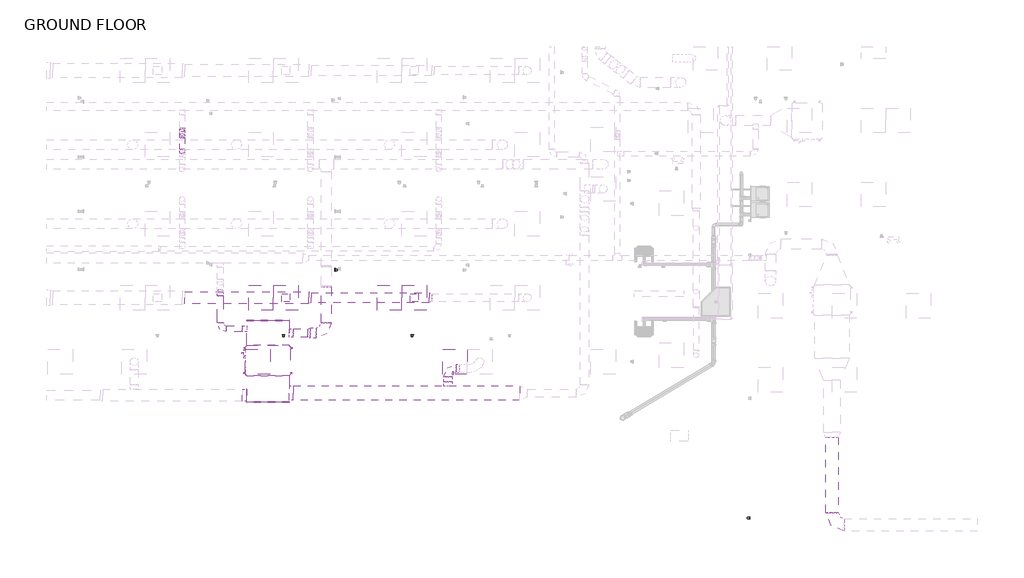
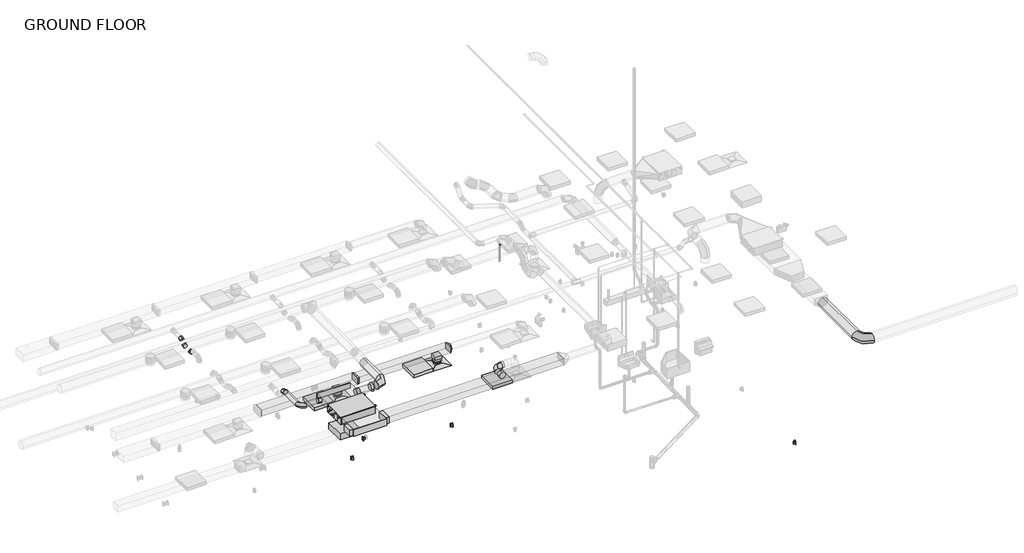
# One storey, part 4 of 22: 22 duct fittings, 17 duct segments, 4 light fixtures, 2 air terminals, 2 pipe segments, 2 proxies, 2 switching devices, 1 electric appliance, 1 pipe fitting.
"""IFC4 building model written with IfcOpenShell, lengths in millimetres."""

from ifc_helpers import new_model, si_unit, point, frame, frame_2d, origin, place, context, project, spatial, polyline, circle_curve, trimmed, segment, composite_curve, outline, extrude, transform, mapped, element, save
from components import air_terminal_e9020785, mechanical_equipment_d42a0ae8, duplex_receptacle_countertop_10251bba, rectangular_endcap_standard_76476d20, rectangular_endcap_standard_db7dad01, rectangular_takeoff_standard_806da19c, rectangular_takeoff_standard_78a7ba75, rectangular_takeoff_standard_d07ea574, rectangular_transition_angle_45_degree_1d311e81, rectangular_to_round_transition_angle_45_degree_e9430680, rectangular_to_round_transition_angle_45_degree_5a025447, round_elbow_1_d_a253342a, round_elbow_1_d_b37ad80b, round_elbow_1_d_6fec3262, round_elbow_1_d_281bc45b, round_elbow_1_d_9a27e954, round_elbow_1_d_538d8ec8, round_takeoff_standard_d3b0d0f9, round_takeoff_standard_1127d77f, round_takeoff_standard_bb6ed057, round_transition_angle_45_degree_6c335ea7, telephone_outlet_data_plain_18c24199, troffer_corner_insert_2x2_3_lamp_emergency_29e3a813, troffer_corner_insert_2x2_3lamp_e67c7f8f, elbow_generic_standard_a088f956

model = new_model("IFC4")

# Units and contexts
model_context = context("Model", 3, world=origin())
ifc_project = project(units=[si_unit("LENGTHUNIT", "METRE", prefix="MILLI")], contexts=[model_context])

# Site, building, storey
site = spatial("IfcSite", under=ifc_project)
building = spatial("IfcBuilding", under=site)
storey = spatial("IfcBuildingStorey", under=building, Name="GROUND FLOOR", Elevation=30480.0)

# Air terminals
placement = place(None, origin())
air_terminal_shape = air_terminal_e9020785(model_context)
element("IfcAirTerminal", 1, ObjectType="Supply Diffuser - Rectangular Face Round Neck - Hosted : 24\"x24\" Face 8\" Neck - Hosted", at=placement, inside=storey, context=model_context, shape_type="MappedRepresentation", body=[
    mapped(air_terminal_shape, transform((2372.6795393, -4228.1054995, 33223.2), x_axis=(0.0, -1.0, 0.0), y_axis=(-1.0, 0.0, 0.0), z_axis=(0.0, 0.0, -1.0))),
])
element("IfcAirTerminal", 2, ObjectType="Supply Diffuser - Rectangular Face Round Neck - Hosted : 24\"x24\" Face 8\" Neck - Hosted", at=placement, inside=storey, context=model_context, shape_type="MappedRepresentation", body=[
    mapped(air_terminal_shape, transform((5544.5045393, -4228.1054995, 33223.2), x_axis=(0.0, -1.0, 0.0), y_axis=(-1.0, 0.0, 0.0), z_axis=(0.0, 0.0, -1.0))),
])

# Proxies
mechanical_equipment_shape = mechanical_equipment_d42a0ae8(model_context)
element("IfcBuildingElementProxy", 3, Name="PEFY-P-NMAU-E_Medium_Static_Ducted : PEFY-P30NMAU-E", ObjectType="PEFY-P-NMAU-E_Medium_Static_Ducted : PEFY-P30NMAU-E", at=placement, inside=storey, context=model_context, shape_type="MappedRepresentation", body=[
    mapped(mechanical_equipment_shape, transform((1920.9522105, -5724.0600038, 33731.2), x_axis=(-1.0, 0.0, 0.0), y_axis=(0.0, -1.0, 0.0), z_axis=(0.0, 0.0, 1.0))),
])
duplex_receptacle_countertop_shape = duplex_receptacle_countertop_10251bba(model_context)
element("IfcBuildingElementProxy", 4, Name="Duplex Receptacle : Standard", ObjectType="Duplex Receptacle : Standard", at=placement, inside=storey, context=model_context, shape_type="MappedRepresentation", body=[
    mapped(duplex_receptacle_countertop_shape, transform((13828.0795393, -9667.2112489, 30937.2), x_axis=(0.0, 1.0, 0.0), y_axis=(0.0, 0.0, 1.0), z_axis=(1.0, 0.0, 0.0))),
])

# Duct fittings
rectangular_endcap_standard_shape = rectangular_endcap_standard_76476d20(model_context)
element("IfcDuctFitting", 5, ObjectType="Rectangular Endcap : Standard", at=placement, inside=storey, context=model_context, shape_type="MappedRepresentation", body=[
    mapped(rectangular_endcap_standard_shape, transform((1930.9644534, -4796.9600038, 33890.74375), x_axis=(0.0, 1.0, 0.0), y_axis=(-1.0, 0.0, 0.0), z_axis=(0.0, 0.0, 1.0))),
])
rectangular_endcap_standard_2_shape = rectangular_endcap_standard_db7dad01(model_context)
element("IfcDuctFitting", 6, ObjectType="Rectangular Endcap : Standard", at=placement, inside=storey, context=model_context, shape_type="MappedRepresentation", body=[
    mapped(rectangular_endcap_standard_2_shape, transform((1930.9644534, -6797.459162, 33877.25), x_axis=(0.0, -1.0, 0.0), y_axis=(0.0, 0.0, -1.0000000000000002), z_axis=(1.0000000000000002, 0.0, 0.0))),
])
rectangular_takeoff_standard_shape = rectangular_takeoff_standard_806da19c(model_context)
element("IfcDuctFitting", 7, ObjectType="Rectangular Takeoff : Standard", at=placement, inside=storey, context=model_context, shape_type="MappedRepresentation", body=[
    mapped(rectangular_takeoff_standard_shape, transform((2458.8082034, -6584.4850038, 33877.25), x_axis=(1.0, 0.0, 0.0), y_axis=(0.0, -1.0, 0.0), z_axis=(0.0, 0.0, -1.0))),
])
rectangular_takeoff_standard_2_shape = rectangular_takeoff_standard_78a7ba75(model_context)
element("IfcDuctFitting", 8, ObjectType="Rectangular Takeoff : Standard", at=placement, inside=storey, context=model_context, shape_type="MappedRepresentation", body=[
    mapped(rectangular_takeoff_standard_2_shape, transform((1403.1207034, -6635.2850038, 33877.25), x_axis=(-1.0, 0.0, 0.0), y_axis=(0.0, 1.0, 0.0), z_axis=(0.0, 0.0, -1.0))),
])
rectangular_takeoff_standard_3_shape = rectangular_takeoff_standard_d07ea574(model_context)
element("IfcDuctFitting", 9, ObjectType="Rectangular Takeoff : Standard", at=placement, inside=storey, context=model_context, shape_type="MappedRepresentation", body=[
    mapped(rectangular_takeoff_standard_3_shape, transform((5544.5045393, -4228.1054995, 33502.6), x_axis=(0.0, 0.0, -1.0), y_axis=(1.0, 0.0, 0.0), z_axis=(0.0, -1.0, 0.0))),
])
element("IfcDuctFitting", 10, ObjectType="Rectangular Takeoff : Standard", at=placement, inside=storey, context=model_context, shape_type="MappedRepresentation", body=[
    mapped(rectangular_takeoff_standard_3_shape, transform((2372.6795393, -4228.1054995, 33502.6), x_axis=(0.0, 0.0, -1.0), y_axis=(1.0, 0.0, 0.0), z_axis=(0.0, -1.0, 0.0))),
])
rectangular_transition_angle_45_degree_shape = rectangular_transition_angle_45_degree_1d311e81(model_context)
element("IfcDuctFitting", 11, ObjectType="Rectangular Transition - Angle : 45 Degree", at=placement, inside=storey, context=model_context, shape_type="MappedRepresentation", body=[
    mapped(rectangular_transition_angle_45_degree_shape, transform((2934.6545393, -4228.1054995, 33604.2), x_axis=(1.0, 0.0, 0.0), y_axis=(0.0, 1.0, 0.0), z_axis=(0.0, 0.0, 1.0))),
])
rectangular_to_round_transition_angle_45_degree_shape = rectangular_to_round_transition_angle_45_degree_e9430680(model_context)
element("IfcDuctFitting", 12, ObjectType="Rectangular to Round Transition - Angle : 45 Degree", at=placement, inside=storey, context=model_context, shape_type="MappedRepresentation", body=[
    mapped(rectangular_to_round_transition_angle_45_degree_shape, transform((5910.8124903, -4228.1054995, 33604.2), x_axis=(1.0, 0.0, 0.0), y_axis=(0.0, 1.0, 0.0), z_axis=(0.0, 0.0, 1.0))),
])
rectangular_to_round_transition_angle_45_degree_2_shape = rectangular_to_round_transition_angle_45_degree_5a025447(model_context)
element("IfcDuctFitting", 13, ObjectType="Rectangular to Round Transition - Angle : 45 Degree", at=placement, inside=storey, context=model_context, shape_type="MappedRepresentation", body=[
    mapped(rectangular_to_round_transition_angle_45_degree_2_shape, transform((5544.5045393, -4228.1054995, 33327.975), x_axis=(0.0, 0.0, -1.0), y_axis=(1.0, 0.0, 0.0), z_axis=(0.0, -1.0, 0.0))),
])
element("IfcDuctFitting", 14, ObjectType="Rectangular to Round Transition - Angle : 45 Degree", at=placement, inside=storey, context=model_context, shape_type="MappedRepresentation", body=[
    mapped(rectangular_to_round_transition_angle_45_degree_2_shape, transform((2372.6795393, -4228.1054995, 33327.975), x_axis=(0.0, 0.0, -1.0), y_axis=(1.0, 0.0, 0.0), z_axis=(0.0, -1.0, 0.0))),
])
round_elbow_1_d_shape = round_elbow_1_d_a253342a(model_context)
element("IfcDuctFitting", 15, ObjectType="Round Elbow : 1 D", at=placement, inside=storey, context=model_context, shape_type="MappedRepresentation", body=[
    mapped(round_elbow_1_d_shape, transform((6377.6154749, -5974.8850038, 33832.8), x_axis=(-1.0, 0.0, 0.0), y_axis=(0.0, -1.0, 0.0), z_axis=(0.0, 0.0, 1.0))),
])
round_elbow_1_d_2_shape = round_elbow_1_d_b37ad80b(model_context)
element("IfcDuctFitting", 16, ObjectType="Round Elbow : 1 D", at=placement, inside=storey, context=model_context, shape_type="MappedRepresentation", body=[
    mapped(round_elbow_1_d_2_shape, transform((752.8182219, -4998.2216457, 33890.74375), x_axis=(0.0, -1.0, 0.0), y_axis=(1.0, 0.0, 0.0), z_axis=(0.0, 0.0, 1.0))),
])
round_elbow_1_d_3_shape = round_elbow_1_d_6fec3262(model_context)
element("IfcDuctFitting", 17, ObjectType="Round Elbow : 1 D", at=placement, inside=storey, context=model_context, shape_type="MappedRepresentation", body=[
    mapped(round_elbow_1_d_3_shape, transform((3373.2082034, -5101.7600038, 33846.29375), x_axis=(1.0, 0.0, 0.0), y_axis=(0.0, 1.0, 0.0), z_axis=(0.0, 0.0, 1.0))),
])
round_elbow_1_d_4_shape = round_elbow_1_d_281bc45b(model_context)
element("IfcDuctFitting", 18, ObjectType="Round Elbow : 1 D", at=placement, inside=storey, context=model_context, shape_type="MappedRepresentation", body=[
    mapped(round_elbow_1_d_4_shape, transform((15866.7105962, -9838.464426, 33750.25), x_axis=(0.0, -1.0, 0.0), y_axis=(1.0, 0.0, 0.0), z_axis=(0.0, 0.0, 1.0))),
])
round_elbow_1_d_5_shape = round_elbow_1_d_9a27e954(model_context)
element("IfcDuctFitting", 19, ObjectType="Round Elbow : 1 D", at=placement, inside=storey, context=model_context, shape_type="MappedRepresentation", body=[
    mapped(round_elbow_1_d_5_shape, transform((752.8182219, -4118.4511555, 33890.74375), x_axis=(0.0, -0.707106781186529, 0.707106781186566), y_axis=(0.0, -0.707106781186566, -0.707106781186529), z_axis=(1.0, 0.0, 0.0))),
])
round_elbow_1_d_6_shape = round_elbow_1_d_538d8ec8(model_context)
element("IfcDuctFitting", 20, ObjectType="Round Elbow : 1 D", at=placement, inside=storey, context=model_context, shape_type="MappedRepresentation", body=[
    mapped(round_elbow_1_d_6_shape, transform((-189.5454607, -599.403412, 33404.3557926), x_axis=(0.0, 0.8191520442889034, -0.5735764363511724), y_axis=(0.0, 0.5735764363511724, 0.8191520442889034), z_axis=(1.0, 0.0, 0.0))),
])
element("IfcDuctFitting", 21, ObjectType="Round Elbow : 1 D", at=placement, inside=storey, context=model_context, shape_type="MappedRepresentation", body=[
    mapped(round_elbow_1_d_6_shape, transform((-189.5454607, -240.3054995, 33404.3557926), x_axis=(0.0, 1.0, 0.0), y_axis=(0.0, 0.0, 1.0), z_axis=(1.0, 0.0, 0.0))),
])
element("IfcDuctFitting", 22, ObjectType="Round Elbow : 1 D", at=placement, inside=storey, context=model_context, shape_type="MappedRepresentation", body=[
    mapped(round_elbow_1_d_6_shape, transform((-189.5454607, -63.7232711, 33528.0), x_axis=(0.0, 0.8191520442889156, 0.5735764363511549), y_axis=(0.0, 0.5735764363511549, -0.8191520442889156), z_axis=(-1.0, 0.0, 0.0))),
])
round_takeoff_standard_shape = round_takeoff_standard_d3b0d0f9(model_context)
element("IfcDuctFitting", 23, ObjectType="Round Takeoff : Standard", at=placement, inside=storey, context=model_context, shape_type="MappedRepresentation", body=[
    mapped(round_takeoff_standard_shape, transform((2458.8082034, -5101.7600038, 33846.29375), x_axis=(1.0, 0.0, 0.0), y_axis=(0.0, -1.0, 0.0), z_axis=(0.0, 0.0, -1.0))),
])
round_takeoff_standard_2_shape = round_takeoff_standard_1127d77f(model_context)
element("IfcDuctFitting", 24, ObjectType="Round Takeoff : Standard", at=placement, inside=storey, context=model_context, shape_type="MappedRepresentation", body=[
    mapped(round_takeoff_standard_2_shape, transform((6377.6154749, -6406.6850038, 33832.8), x_axis=(0.0, 1.0, 0.0), y_axis=(1.0, 0.0, 0.0), z_axis=(0.0, 0.0, -1.0))),
])
round_takeoff_standard_3_shape = round_takeoff_standard_bb6ed057(model_context)
element("IfcDuctFitting", 25, ObjectType="Round Takeoff : Standard", at=placement, inside=storey, context=model_context, shape_type="MappedRepresentation", body=[
    mapped(round_takeoff_standard_3_shape, transform((1403.1207034, -4998.2216457, 33890.74375), x_axis=(-1.0, 0.0, 0.0), y_axis=(0.0, 1.0, 0.0), z_axis=(0.0, 0.0, -1.0))),
])
round_transition_angle_45_degree_shape = round_transition_angle_45_degree_6c335ea7(model_context)
element("IfcDuctFitting", 26, ObjectType="Round Transition - Angle : 45 Degree", at=placement, inside=storey, context=model_context, shape_type="MappedRepresentation", body=[
    mapped(round_transition_angle_45_degree_shape, transform((2916.0082034, -5101.7600038, 33846.29375), x_axis=(1.0, 0.0, 0.0), y_axis=(0.0, 1.0, 0.0), z_axis=(0.0, 0.0, 1.0))),
])

# Duct segments
element("IfcDuctSegment", 27, ObjectType="Mitered Elbows / Taps", at=placement, inside=storey, context=model_context, shape_type="SweptSolid", body=[
    extrude(outline(polyline([(8148.4082034, -6406.6850038), (8148.4082034, -6762.2850038), (2560.4082034, -6762.2850038), (2560.4082034, -6406.6850038), (8148.4082034, -6406.6850038)])), frame((0.0, 0.0, 33775.65), z_axis=(0.0, 0.0, 1.0), x_axis=(1.0, 0.0, 0.0)), (0.0, 0.0, 1.0), 203.2),
])
element("IfcDuctSegment", 28, ObjectType="Mitered Elbows / Taps", at=placement, inside=storey, context=model_context, shape_type="SweptSolid", body=[
    extrude(outline(polyline([(-128.2244362, -4380.5054995), (-128.2244362, -4075.7054995), (2934.6545393, -4075.7054995), (2934.6545393, -4380.5054995), (-128.2244362, -4380.5054995)])), frame((0.0, 0.0, 33502.6), z_axis=(0.0, 0.0, 1.0), x_axis=(1.0, 0.0, 0.0)), (0.0, 0.0, 1.0), 203.2),
])
element("IfcDuctSegment", 29, ObjectType="Mitered Elbows / Taps", at=placement, inside=storey, context=model_context, shape_type="SweptSolid", body=[
    extrude(outline(polyline([(2995.9755638, -4355.1054995), (2995.9755638, -4101.1054995), (5910.8124903, -4101.1054995), (5910.8124903, -4355.1054995), (2995.9755638, -4355.1054995)])), frame((0.0, 0.0, 33502.6), z_axis=(0.0, 0.0, 1.0), x_axis=(1.0, 0.0, 0.0)), (0.0, 0.0, 1.0), 203.2),
])
element("IfcDuctSegment", 30, ObjectType="Mitered Elbows / Taps", at=placement, inside=storey, context=model_context, shape_type="SweptSolid", body=[
    extrude(outline(polyline([(5442.9045393, -4126.5054995), (5646.1045393, -4126.5054995), (5646.1045393, -4329.7054995), (5442.9045393, -4329.7054995), (5442.9045393, -4126.5054995)])), frame((0.0, 0.0, 33327.975), z_axis=(0.0, 0.0, 1.0), x_axis=(1.0, 0.0, 0.0)), (0.0, 0.0, 1.0), 73.025),
])
element("IfcDuctSegment", 31, ObjectType="Mitered Elbows / Taps", at=placement, inside=storey, context=model_context, shape_type="SweptSolid", body=[
    extrude(outline(polyline([(2271.0795393, -4126.5054995), (2474.2795393, -4126.5054995), (2474.2795393, -4329.7054995), (2271.0795393, -4329.7054995), (2271.0795393, -4126.5054995)])), frame((0.0, 0.0, 33327.975), z_axis=(0.0, 0.0, 1.0), x_axis=(1.0, 0.0, 0.0)), (0.0, 0.0, 1.0), 73.025),
])
element("IfcDuctSegment", 32, ObjectType="Mitered Elbows / Tees", at=placement, inside=storey, context=model_context, shape_type="SweptSolid", body=[
    extrude(outline(polyline([(2458.8082034, -5406.5600038), (1403.1207034, -5406.5600038), (1403.1207034, -4796.9600038), (2458.8082034, -4796.9600038), (2458.8082034, -5406.5600038)])), frame((0.0, 0.0, 33801.05), z_axis=(0.0, 0.0, 1.0), x_axis=(1.0, 0.0, 0.0)), (0.0, 0.0, 1.0), 179.3875),
])
element("IfcDuctSegment", 33, ObjectType="Mitered Elbows / Tees", at=placement, inside=storey, context=model_context, shape_type="SweptSolid", body=[
    extrude(outline(polyline([(1403.1207034, -6152.6850038), (2458.8082034, -6152.6850038), (2458.8082034, -6797.459162), (1403.1207034, -6797.459162), (1403.1207034, -6152.6850038)])), frame((0.0, 0.0, 33774.0625), z_axis=(0.0, 0.0, 1.0), x_axis=(1.0, 0.0, 0.0)), (0.0, 0.0, 1.0), 206.375),
])
element("IfcDuctSegment", 34, ObjectType="Taps / Short Radius", at=placement, inside=storey, context=model_context, shape_type="SweptSolid", body=[
    extrude(outline(composite_curve([segment(trimmed(circle_curve(frame_2d((33832.8, 6377.6154749)), 101.6), [point((33832.8, 6479.2154749))], [point((33934.4, 6377.6154749))], False, "CARTESIAN"), True, "CONTINUOUS"), segment(trimmed(circle_curve(frame_2d((33832.8, 6377.6154749)), 101.6), [point((33934.4, 6377.6154749))], [point((33832.8, 6276.0154749))], False, "CARTESIAN"), True, "CONTINUOUS"), segment(trimmed(circle_curve(frame_2d((33832.8, 6377.6154749)), 101.6), [point((33832.8, 6276.0154749))], [point((33731.2, 6377.6154749))], False, "CARTESIAN"), True, "CONTINUOUS"), segment(trimmed(circle_curve(frame_2d((33832.8, 6377.6154749)), 101.6), [point((33731.2, 6377.6154749))], [point((33832.8, 6479.2154749))], False, "CARTESIAN"), True, "CONTINUOUS")], self_intersect=False)), frame((0.0, -6305.0850038, 0.0), z_axis=(0.0, 1.0, 0.0), x_axis=(0.0, 0.0, 1.0)), (0.0, 0.0, 1.0), 127.0),
])
element("IfcDuctSegment", 35, ObjectType="Taps / Short Radius", at=placement, inside=storey, context=model_context, shape_type="SweptSolid", body=[
    extrude(outline(composite_curve([segment(trimmed(circle_curve(frame_2d((-5974.8850038, 33832.8)), 101.6), [point((-6076.4850038, 33832.8))], [point((-5974.8850038, 33934.4))], False, "CARTESIAN"), True, "CONTINUOUS"), segment(trimmed(circle_curve(frame_2d((-5974.8850038, 33832.8)), 101.6), [point((-5974.8850038, 33934.4))], [point((-5873.2850038, 33832.8))], False, "CARTESIAN"), True, "CONTINUOUS"), segment(trimmed(circle_curve(frame_2d((-5974.8850038, 33832.8)), 101.6), [point((-5873.2850038, 33832.8))], [point((-5974.8850038, 33731.2))], False, "CARTESIAN"), True, "CONTINUOUS"), segment(trimmed(circle_curve(frame_2d((-5974.8850038, 33832.8)), 101.6), [point((-5974.8850038, 33731.2))], [point((-6076.4850038, 33832.8))], False, "CARTESIAN"), True, "CONTINUOUS")], self_intersect=False)), frame((6580.8154749, 0.0, 0.0), z_axis=(1.0, 0.0, 0.0), x_axis=(0.0, 1.0, 0.0)), (0.0, 0.0, 1.0), 76.2),
])
element("IfcDuctSegment", 36, ObjectType="Taps / Short Radius", at=placement, inside=storey, context=model_context, shape_type="SweptSolid", body=[
    extrude(outline(composite_curve([segment(trimmed(circle_curve(frame_2d((33750.25, 15866.7105962)), 152.4), [point((33750.25, 15714.3105962))], [point((33597.85, 15866.7105962))], False, "CARTESIAN"), True, "CONTINUOUS"), segment(trimmed(circle_curve(frame_2d((33750.25, 15866.7105962)), 152.4), [point((33597.85, 15866.7105962))], [point((33750.25, 16019.1105962))], False, "CARTESIAN"), True, "CONTINUOUS"), segment(trimmed(circle_curve(frame_2d((33750.25, 15866.7105962)), 152.4), [point((33750.25, 16019.1105962))], [point((33902.65, 15866.7105962))], False, "CARTESIAN"), True, "CONTINUOUS"), segment(trimmed(circle_curve(frame_2d((33750.25, 15866.7105962)), 152.4), [point((33902.65, 15866.7105962))], [point((33750.25, 15714.3105962))], False, "CARTESIAN"), True, "CONTINUOUS")], self_intersect=False)), frame((0.0, -9533.664426, 0.0), z_axis=(0.0, 1.0, 0.0), x_axis=(0.0, 0.0, 1.0)), (0.0, 0.0, 1.0), 1858.557951),
])
element("IfcDuctSegment", 37, ObjectType="Taps / Short Radius", at=placement, inside=storey, context=model_context, shape_type="SweptSolid", body=[
    extrude(outline(composite_curve([segment(trimmed(circle_curve(frame_2d((-5101.7600038, 33846.29375)), 101.6), [point((-5203.3600038, 33846.29375))], [point((-5101.7600038, 33947.89375))], False, "CARTESIAN"), True, "CONTINUOUS"), segment(trimmed(circle_curve(frame_2d((-5101.7600038, 33846.29375)), 101.6), [point((-5101.7600038, 33947.89375))], [point((-5000.1600038, 33846.29375))], False, "CARTESIAN"), True, "CONTINUOUS"), segment(trimmed(circle_curve(frame_2d((-5101.7600038, 33846.29375)), 101.6), [point((-5000.1600038, 33846.29375))], [point((-5101.7600038, 33744.69375))], False, "CARTESIAN"), True, "CONTINUOUS"), segment(trimmed(circle_curve(frame_2d((-5101.7600038, 33846.29375)), 101.6), [point((-5101.7600038, 33744.69375))], [point((-5203.3600038, 33846.29375))], False, "CARTESIAN"), True, "CONTINUOUS")], self_intersect=False)), frame((2560.4082034, 0.0, 0.0), z_axis=(1.0, 0.0, 0.0), x_axis=(0.0, 1.0, 0.0)), (0.0, 0.0, 1.0), 355.6),
])
element("IfcDuctSegment", 38, ObjectType="Taps / Short Radius", at=placement, inside=storey, context=model_context, shape_type="SweptSolid", body=[
    extrude(outline(composite_curve([segment(trimmed(circle_curve(frame_2d((-5101.7600038, 33846.29375)), 127.0), [point((-5228.7600038, 33846.29375))], [point((-5101.7600038, 33973.29375))], False, "CARTESIAN"), True, "CONTINUOUS"), segment(trimmed(circle_curve(frame_2d((-5101.7600038, 33846.29375)), 127.0), [point((-5101.7600038, 33973.29375))], [point((-4974.7600038, 33846.29375))], False, "CARTESIAN"), True, "CONTINUOUS"), segment(trimmed(circle_curve(frame_2d((-5101.7600038, 33846.29375)), 127.0), [point((-4974.7600038, 33846.29375))], [point((-5101.7600038, 33719.29375))], False, "CARTESIAN"), True, "CONTINUOUS"), segment(trimmed(circle_curve(frame_2d((-5101.7600038, 33846.29375)), 127.0), [point((-5101.7600038, 33719.29375))], [point((-5228.7600038, 33846.29375))], False, "CARTESIAN"), True, "CONTINUOUS")], self_intersect=False)), frame((2977.3292279, 0.0, 0.0), z_axis=(1.0, 0.0, 0.0), x_axis=(0.0, 1.0, 0.0)), (0.0, 0.0, 1.0), 141.8789755),
])
element("IfcDuctSegment", 39, ObjectType="Taps / Short Radius", at=placement, inside=storey, context=model_context, shape_type="SweptSolid", body=[
    extrude(outline(composite_curve([segment(trimmed(circle_curve(frame_2d((33846.29375, 3373.2082034)), 127.0), [point((33846.29375, 3500.2082034))], [point((33973.29375, 3373.2082034))], False, "CARTESIAN"), True, "CONTINUOUS"), segment(trimmed(circle_curve(frame_2d((33846.29375, 3373.2082034)), 127.0), [point((33973.29375, 3373.2082034))], [point((33846.29375, 3246.2082034))], False, "CARTESIAN"), True, "CONTINUOUS"), segment(trimmed(circle_curve(frame_2d((33846.29375, 3373.2082034)), 127.0), [point((33846.29375, 3246.2082034))], [point((33719.29375, 3373.2082034))], False, "CARTESIAN"), True, "CONTINUOUS"), segment(trimmed(circle_curve(frame_2d((33846.29375, 3373.2082034)), 127.0), [point((33719.29375, 3373.2082034))], [point((33846.29375, 3500.2082034))], False, "CARTESIAN"), True, "CONTINUOUS")], self_intersect=False)), frame((0.0, -4847.7600038, 0.0), z_axis=(0.0, 1.0, 0.0), x_axis=(0.0, 0.0, 1.0)), (0.0, 0.0, 1.0), 894.6785339),
])
element("IfcDuctSegment", 40, ObjectType="Taps / Short Radius", at=placement, inside=storey, context=model_context, shape_type="SweptSolid", body=[
    extrude(outline(composite_curve([segment(trimmed(circle_curve(frame_2d((33890.74375, 752.8182219)), 76.2), [point((33890.74375, 676.6182219))], [point((33814.54375, 752.8182219))], False, "CARTESIAN"), True, "CONTINUOUS"), segment(trimmed(circle_curve(frame_2d((33890.74375, 752.8182219)), 76.2), [point((33814.54375, 752.8182219))], [point((33890.74375, 829.0182219))], False, "CARTESIAN"), True, "CONTINUOUS"), segment(trimmed(circle_curve(frame_2d((33890.74375, 752.8182219)), 76.2), [point((33890.74375, 829.0182219))], [point((33966.94375, 752.8182219))], False, "CARTESIAN"), True, "CONTINUOUS"), segment(trimmed(circle_curve(frame_2d((33890.74375, 752.8182219)), 76.2), [point((33966.94375, 752.8182219))], [point((33890.74375, 676.6182219))], False, "CARTESIAN"), True, "CONTINUOUS")], self_intersect=False)), frame((0.0, -4845.8216457, 0.0), z_axis=(0.0, 1.0, 0.0), x_axis=(0.0, 0.0, 1.0)), (0.0, 0.0, 1.0), 664.2443434),
])
element("IfcDuctSegment", 41, ObjectType="Taps / Short Radius", at=placement, inside=storey, context=model_context, shape_type="SweptSolid", body=[
    extrude(outline(composite_curve([segment(trimmed(circle_curve(frame_2d((-4998.2216457, 33890.74375)), 76.2), [point((-4922.0216457, 33890.74375))], [point((-4998.2216457, 33814.54375))], False, "CARTESIAN"), True, "CONTINUOUS"), segment(trimmed(circle_curve(frame_2d((-4998.2216457, 33890.74375)), 76.2), [point((-4998.2216457, 33814.54375))], [point((-5074.4216457, 33890.74375))], False, "CARTESIAN"), True, "CONTINUOUS"), segment(trimmed(circle_curve(frame_2d((-4998.2216457, 33890.74375)), 76.2), [point((-5074.4216457, 33890.74375))], [point((-4998.2216457, 33966.94375))], False, "CARTESIAN"), True, "CONTINUOUS"), segment(trimmed(circle_curve(frame_2d((-4998.2216457, 33890.74375)), 76.2), [point((-4998.2216457, 33966.94375))], [point((-4922.0216457, 33890.74375))], False, "CARTESIAN"), True, "CONTINUOUS")], self_intersect=False)), frame((905.2182219, 0.0, 0.0), z_axis=(1.0, 0.0, 0.0), x_axis=(0.0, 1.0, 0.0)), (0.0, 0.0, 1.0), 396.3024816),
])
element("IfcDuctSegment", 42, ObjectType="Taps / Short Radius", at=placement, inside=storey, context=model_context, shape_type="SweptSolid", body=[
    extrude(outline(composite_curve([segment(trimmed(circle_curve(frame_2d((33404.3557926, -189.5454607)), 63.5), [point((33404.3557926, -126.0454607))], [point((33467.8557926, -189.5454607))], False, "CARTESIAN"), True, "CONTINUOUS"), segment(trimmed(circle_curve(frame_2d((33404.3557926, -189.5454607)), 63.5), [point((33467.8557926, -189.5454607))], [point((33404.3557926, -253.0454607))], False, "CARTESIAN"), True, "CONTINUOUS"), segment(trimmed(circle_curve(frame_2d((33404.3557926, -189.5454607)), 63.5), [point((33404.3557926, -253.0454607))], [point((33340.8557926, -189.5454607))], False, "CARTESIAN"), True, "CONTINUOUS"), segment(trimmed(circle_curve(frame_2d((33404.3557926, -189.5454607)), 63.5), [point((33340.8557926, -189.5454607))], [point((33404.3557926, -126.0454607))], False, "CARTESIAN"), True, "CONTINUOUS")], self_intersect=False)), frame((0.0, -559.3604658, 0.0), z_axis=(0.0, 1.0, 0.0), x_axis=(0.0, 0.0, 1.0)), (0.0, 0.0, 1.0), 279.0120202),
])
element("IfcDuctSegment", 43, ObjectType="Taps / Short Radius", at=placement, inside=storey, context=model_context, shape_type="SweptSolid", body=[
    extrude(outline(composite_curve([segment(trimmed(circle_curve(frame_2d((0.0, 63.5)), 63.5), [point((63.5, 63.5))], [point((0.0, 0.0))], False, "CARTESIAN"), True, "CONTINUOUS"), segment(trimmed(circle_curve(frame_2d((0.0, 63.5)), 63.5), [point((0.0, 0.0))], [point((-63.5, 63.5))], False, "CARTESIAN"), True, "CONTINUOUS"), segment(trimmed(circle_curve(frame_2d((0.0, 63.5)), 63.5), [point((-63.5, 63.5))], [point((0.0, 127.0000001))], False, "CARTESIAN"), True, "CONTINUOUS"), segment(trimmed(circle_curve(frame_2d((0.0, 63.5)), 63.5), [point((0.0, 127.0000001))], [point((63.5, 63.5))], False, "CARTESIAN"), True, "CONTINUOUS")], self_intersect=False)), frame((-189.5454607, -243.926342, 33479.3396378), z_axis=(0.0, 0.8191520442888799, 0.5735764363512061), x_axis=(1.0, 0.0, 0.0)), (0.0, 0.0, 1.0), 135.4812048),
])

# Electric appliance
telephone_outlet_data_plain_shape = telephone_outlet_data_plain_18c24199(model_context)
element("IfcElectricAppliance", 44, ObjectType="Telephone Outlet - Data : Plain", at=placement, inside=storey, context=model_context, shape_type="MappedRepresentation", body=[
    mapped(telephone_outlet_data_plain_shape, transform((3591.8795393, -4418.2328608, 30079.95), x_axis=(0.0, -1.0, 0.0), y_axis=(0.0, 0.0, 1.0), z_axis=(-1.0, 0.0, 0.0))),
])

# Light fixtures
troffer_corner_insert_2x2_3_lamp_emergency_shape = troffer_corner_insert_2x2_3_lamp_emergency_29e3a813(model_context)
element("IfcLightFixture", 45, ObjectType="Troffer Corner Insert : 2x2 3 Lamp Emergency", at=placement, inside=storey, context=model_context, shape_type="MappedRepresentation", body=[
    mapped(troffer_corner_insert_2x2_3_lamp_emergency_shape, transform((1677.3545393, -5809.2554995, 30784.8), x_axis=(1.0, 0.0, 0.0), y_axis=(0.0, 1.0, 0.0), z_axis=(0.0, 0.0, 1.0))),
])
troffer_corner_insert_2x2_3lamp_shape = troffer_corner_insert_2x2_3lamp_e67c7f8f(model_context)
element("IfcLightFixture", 46, ObjectType="Troffer Corner Insert : 2x2 3Lamp", at=placement, inside=storey, context=model_context, shape_type="MappedRepresentation", body=[
    mapped(troffer_corner_insert_2x2_3lamp_shape, transform((1763.0795393, -4228.1054995, 30784.8), x_axis=(1.0, 0.0, 0.0), y_axis=(0.0, 1.0, 0.0), z_axis=(0.0, 0.0, 1.0))),
])
element("IfcLightFixture", 47, ObjectType="Troffer Corner Insert : 2x2 3Lamp", at=placement, inside=storey, context=model_context, shape_type="MappedRepresentation", body=[
    mapped(troffer_corner_insert_2x2_3lamp_shape, transform((4934.9045393, -4228.1054995, 30784.8), x_axis=(1.0, 0.0, 0.0), y_axis=(0.0, 1.0, 0.0), z_axis=(0.0, 0.0, 1.0))),
])
element("IfcLightFixture", 48, ObjectType="Troffer Corner Insert : 2x2 3Lamp", at=placement, inside=storey, context=model_context, shape_type="MappedRepresentation", body=[
    mapped(troffer_corner_insert_2x2_3lamp_shape, transform((6554.1545393, -5809.2554995, 30784.8), x_axis=(1.0, 0.0, 0.0), y_axis=(0.0, 1.0, 0.0), z_axis=(0.0, 0.0, 1.0))),
])

# Pipe fitting
elbow_generic_standard_shape = elbow_generic_standard_a088f956(model_context)
element("IfcPipeFitting", 49, ObjectType="Elbow - Generic : Standard", at=placement, inside=storey, context=model_context, shape_type="MappedRepresentation", body=[
    mapped(elbow_generic_standard_shape, transform((6497.3220393, -6058.4929995, 37998.4), x_axis=(0.0, 0.0, 1.0), y_axis=(0.0, -1.0, 0.0), z_axis=(1.0, 0.0, 0.0))),
])

# Pipe segments
element("IfcPipeSegment", 50, ObjectType="Copper Tubing", at=placement, inside=storey, context=model_context, shape_type="SweptSolid", body=[
    extrude(outline(composite_curve([segment(trimmed(circle_curve(frame_2d((37998.4, 6497.3220393)), 7.9375), [point((37998.4, 6505.2595393))], [point((38006.3375, 6497.3220393))], False, "CARTESIAN"), True, "CONTINUOUS"), segment(trimmed(circle_curve(frame_2d((37998.4, 6497.3220393)), 7.9375), [point((38006.3375, 6497.3220393))], [point((37998.4, 6489.3845393))], False, "CARTESIAN"), True, "CONTINUOUS"), segment(trimmed(circle_curve(frame_2d((37998.4, 6497.3220393)), 7.9375), [point((37998.4, 6489.3845393))], [point((37990.4625, 6497.3220393))], False, "CARTESIAN"), True, "CONTINUOUS"), segment(trimmed(circle_curve(frame_2d((37998.4, 6497.3220393)), 7.9375), [point((37990.4625, 6497.3220393))], [point((37998.4, 6505.2595393))], False, "CARTESIAN"), True, "CONTINUOUS")], self_intersect=False)), frame((0.0, -6120.4054995, 0.0), z_axis=(0.0, 1.0, 0.0), x_axis=(0.0, 0.0, 1.0)), (0.0, 0.0, 1.0), 47.625),
])
element("IfcPipeSegment", 51, ObjectType="Copper Tubing", at=placement, inside=storey, context=model_context, shape_type="SweptSolid", body=[
    extrude(outline(composite_curve([segment(trimmed(circle_curve(frame_2d((6497.3220393, -6058.4929995)), 7.9375), [point((6489.3845393, -6058.4929995))], [point((6497.3220393, -6050.5554995))], False, "CARTESIAN"), True, "CONTINUOUS"), segment(trimmed(circle_curve(frame_2d((6497.3220393, -6058.4929995)), 7.9375), [point((6497.3220393, -6050.5554995))], [point((6505.2595393, -6058.4929995))], False, "CARTESIAN"), True, "CONTINUOUS"), segment(trimmed(circle_curve(frame_2d((6497.3220393, -6058.4929995)), 7.9375), [point((6505.2595393, -6058.4929995))], [point((6497.3220393, -6066.4304995))], False, "CARTESIAN"), True, "CONTINUOUS"), segment(trimmed(circle_curve(frame_2d((6497.3220393, -6058.4929995)), 7.9375), [point((6497.3220393, -6066.4304995))], [point((6489.3845393, -6058.4929995))], False, "CARTESIAN"), True, "CONTINUOUS")], self_intersect=False)), frame((0.0, 0.0, 37422.1375102), z_axis=(0.0, 0.0, 1.0), x_axis=(1.0, 0.0, 0.0)), (0.0, 0.0, 1.0), 561.9749898),
])

# Switching devices
element("IfcSwitchingDevice", 52, ObjectType="Lighting Switches - Occupancy Sensor : Occupancy Sensor", at=placement, inside=storey, context=model_context, shape_type="MappedRepresentation", body=[
    mapped(duplex_receptacle_countertop_shape, transform((5493.5296811, -5142.5054995, 31699.2), x_axis=(-1.0, 0.0, 0.0), y_axis=(0.0, 0.0, 1.0), z_axis=(0.0, 1.0, 0.0))),
])
element("IfcSwitchingDevice", 53, ObjectType="Lighting Switches - Occupancy Sensor : Occupancy Sensor", at=placement, inside=storey, context=model_context, shape_type="MappedRepresentation", body=[
    mapped(duplex_receptacle_countertop_shape, transform((2316.5516148, -5142.5054995, 31699.2), x_axis=(-1.0, 0.0, 0.0), y_axis=(0.0, 0.0, 1.0), z_axis=(0.0, 1.0, 0.0))),
])

save(model, "model.ifc")
